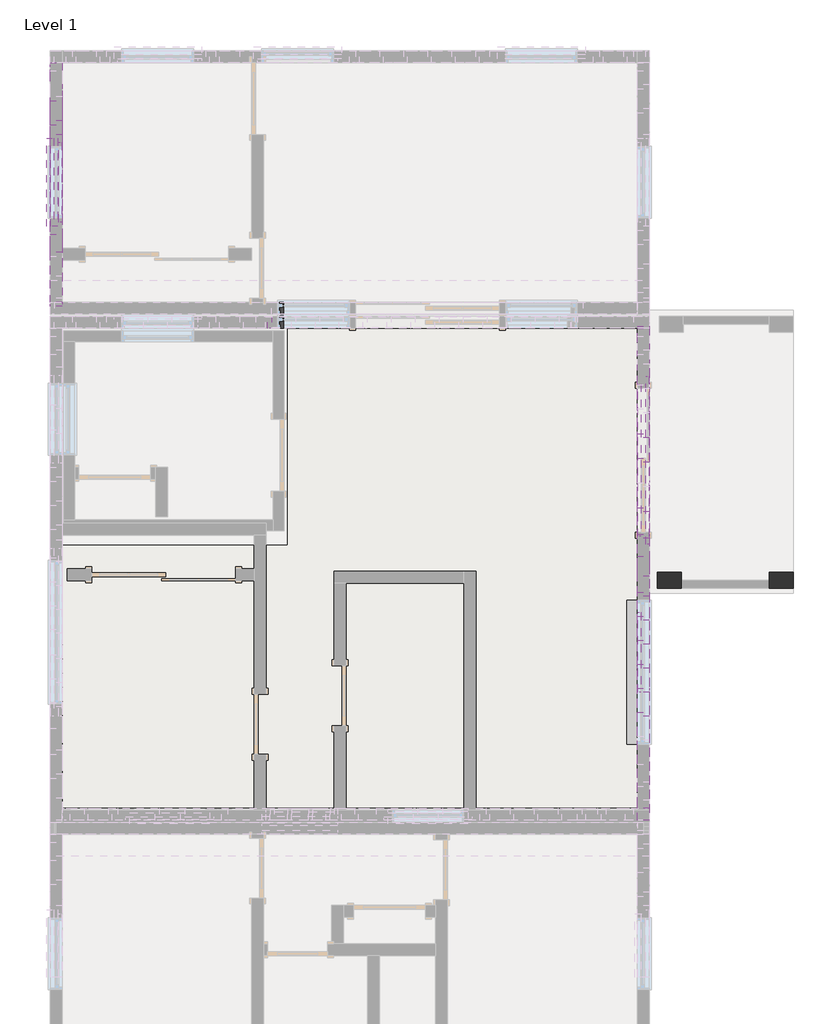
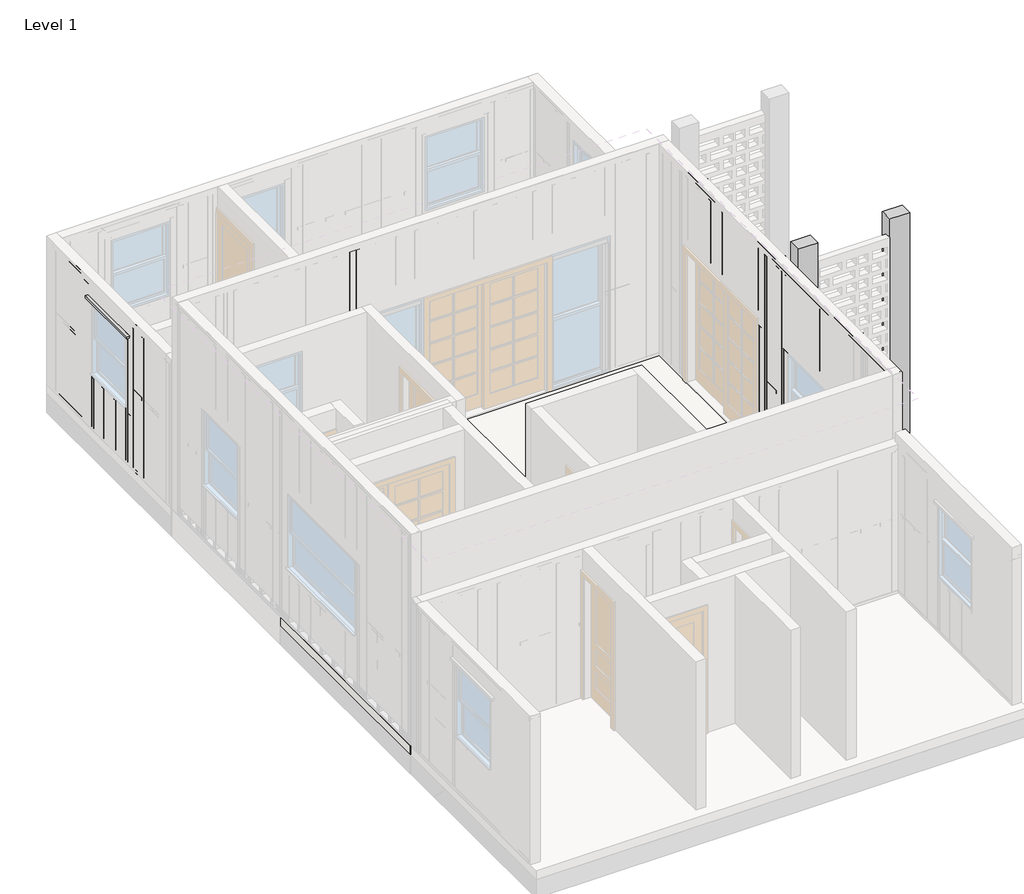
# One storey, part 9 of 12: 95 beams, 2 columns, 1 slab.
"""IFC4 building model written with IfcOpenShell, lengths in millimetres."""

from ifc_helpers import new_model, si_unit, frame, origin, origin_with_axes, place, context, project, spatial, polyline, outline, extrude, faceted_brep, transform, mapped, element, save
from components import dimension_lumber_2x6_02983d30, beam_fa8ff98f, beam_bfada912, beam_f2c8ab0e, beam_8b53db74, beam_bef4b980, beam_f887e3a5, beam_94f9b516, beam_558964e0, beam_303ef41e, beam_4715e774, beam_b7962ac8, beam_15472744, beam_b2f74068, beam_e05c4371, beam_19b97b81, beam_095611d5, beam_9beb57b8, beam_0a15c773, beam_52755977, beam_0c8f00b2, beam_836dcb35, beam_0ed2558e, beam_af26c5b7, beam_1f5e18a4, beam_b6a04b3d, beam_b4771957, beam_b94c8671, beam_764520b5, beam_3c0861fc, beam_066f0da2, beam_9d6aa0d6, beam_871d04bb, beam_51b55d0f, beam_34389604, beam_50f049cc, beam_a83041ab, beam_6518eab1, beam_1fd180ee, beam_5827d081

model = new_model("IFC4")

# Units and contexts
model_context = context("Model", 3, world=origin())
ifc_project = project(units=[si_unit("LENGTHUNIT", "METRE", prefix="MILLI")], contexts=[model_context])

# Site, building, storey
site = spatial("IfcSite", under=ifc_project)
building = spatial("IfcBuilding", under=site)
storey = spatial("IfcBuildingStorey", under=building, Name="Level 1", Elevation=0.0)

# Beams
placement = place(None, origin())
dimension_lumber_2x6_shape = dimension_lumber_2x6_02983d30(model_context)
element("IfcBeam", 1, ObjectType="Dimension Lumber : 2x6", at=placement, inside=storey, context=model_context, shape_type="MappedRepresentation", body=[
    mapped(dimension_lumber_2x6_shape, transform((-4117.1970766, -23281.1583219, 889.0), x_axis=(0.0, -1.0000000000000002, 0.0), y_axis=(0.0, 0.0, -1.0000000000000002), z_axis=(1.0000000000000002, 0.0, 0.0))),
])
element("IfcBeam", 2, ObjectType="Dimension Lumber : 2x6", at=placement, inside=storey, context=model_context, shape_type="MappedRepresentation", body=[
    mapped(dimension_lumber_2x6_shape, transform((-4117.1970766, -23281.1583219, 838.2), x_axis=(0.0, -1.0000000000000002, 0.0), y_axis=(0.0, 0.0, -1.0000000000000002), z_axis=(1.0000000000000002, 0.0, 0.0))),
])
element("IfcBeam", 3, ObjectType="Rectangular(Timber)-Beam : Timber_0' - 1 31/32\" x0' - 5 29/32\" _ContentGenerator", at=placement, inside=storey, context=model_context, shape_type="SweptSolid", body=[
    extrude(outline(polyline([(-3909.6790766, -21503.1863369), (-3909.6790766, -21553.9863369), (-4062.0790766, -21553.9863369), (-4062.0790766, -21503.1863369), (-3909.6790766, -21503.1863369)])), origin_with_axes(), (0.0, 0.0, 1.0), 2127.25),
])
element("IfcBeam", 4, ObjectType="Rectangular(Timber)-Beam : Timber_0' - 1 31/32\" x0' - 5 29/32\" _ContentGenerator", at=placement, inside=storey, context=model_context, shape_type="SweptSolid", body=[
    extrude(outline(polyline([(-15534.2431336, 2387.6), (-15585.0431336, 2336.8), (-18582.1763369, 2336.8), (-18632.9763369, 2387.6), (-15534.2431336, 2387.6)])), frame((-11529.6790766, 0.0, 0.0), z_axis=(1.0, 0.0, 0.0), x_axis=(0.0, 1.0, 0.0)), (0.0, 0.0, 1.0), 152.4),
])
element("IfcBeam", 5, ObjectType="Rectangular(Timber)-Beam : Timber_0' - 1 31/32\" x0' - 5 29/32\" _ContentGenerator", at=placement, inside=storey, context=model_context, shape_type="SweptSolid", body=[
    extrude(outline(polyline([(-11377.2790766, -17617.0431336), (-11377.2790766, -17667.8431336), (-11529.6790766, -17667.8431336), (-11529.6790766, -17617.0431336), (-11377.2790766, -17617.0431336)])), frame((0.0, 0.0, 50.8), z_axis=(0.0, 0.0, 1.0), x_axis=(1.0, 0.0, 0.0)), (0.0, 0.0, 1.0), 2286.0),
])
element("IfcBeam", 6, ObjectType="Rectangular(Timber)-Beam : Timber_0' - 1 31/32\" x0' - 5 29/32\" _ContentGenerator", at=placement, inside=storey, context=model_context, shape_type="SweptSolid", body=[
    extrude(outline(polyline([(-11377.2790766, -16448.6331336), (-11377.2790766, -16499.4331336), (-11529.6790766, -16499.4331336), (-11529.6790766, -16448.6331336), (-11377.2790766, -16448.6331336)])), frame((0.0, 0.0, 50.8), z_axis=(0.0, 0.0, 1.0), x_axis=(1.0, 0.0, 0.0)), (0.0, 0.0, 1.0), 2286.0),
])
element("IfcBeam", 7, ObjectType="Rectangular(Timber)-Beam : Timber_0' - 1 31/32\" x0' - 5 29/32\" _ContentGenerator", at=placement, inside=storey, context=model_context, shape_type="SweptSolid", body=[
    extrude(outline(polyline([(-4062.0790766, -21553.9863369), (-3909.6790766, -21553.9863369), (-3909.6790766, -24957.5813369), (-4062.0790766, -24957.5813369), (-4062.0790766, -21553.9863369)])), origin_with_axes(), (0.0, 0.0, 1.0), 50.8),
])
element("IfcBeam", 8, ObjectType="Rectangular(Timber)-Beam : Timber_0' - 1 31/32\" x0' - 5 29/32\" _ContentGenerator", at=placement, inside=storey, context=model_context, shape_type="SweptSolid", body=[
    extrude(outline(polyline([(-11377.2790766, -18582.1763369), (-11529.6790766, -18582.1763369), (-11529.6790766, -15585.0431336), (-11377.2790766, -15585.0431336), (-11377.2790766, -18582.1763369)])), origin_with_axes(), (0.0, 0.0, 1.0), 50.8),
])
element("IfcBeam", 9, ObjectType="Rectangular(Timber)-Beam : Timber_0' - 1 31/32\" x0' - 5 29/32\" _ContentGenerator", at=placement, inside=storey, context=model_context, shape_type="SweptSolid", body=[
    extrude(outline(polyline([(-25008.3813369, 3429.0), (-18886.9863369, 3429.0), (-18886.9863369, 3378.2), (-24957.5813369, 3378.2), (-25008.3813369, 3429.0)])), frame((-4062.0790766, 0.0, 0.0), z_axis=(1.0, 0.0, 0.0), x_axis=(0.0, 1.0, 0.0)), (0.0, 0.0, 1.0), 152.4),
])
element("IfcBeam", 10, ObjectType="Rectangular(Timber)-Beam : Timber_0' - 1 31/32\" x0' - 5 29/32\" _ContentGenerator", at=placement, inside=storey, context=model_context, shape_type="SweptSolid", body=[
    extrude(outline(polyline([(-11377.2790766, -16397.7931336), (-11377.2790766, -16448.5931336), (-11529.6790766, -16448.5931336), (-11529.6790766, -16397.7931336), (-11377.2790766, -16397.7931336)])), frame((0.0, 0.0, 50.8), z_axis=(0.0, 0.0, 1.0), x_axis=(1.0, 0.0, 0.0)), (0.0, 0.0, 1.0), 2286.0),
])
element("IfcBeam", 11, ObjectType="Rectangular(Timber)-Beam : Timber_0' - 1 31/32\" x0' - 5 29/32\" _ContentGenerator", at=placement, inside=storey, context=model_context, shape_type="SweptSolid", body=[
    extrude(outline(polyline([(-11377.2790766, -17667.8431336), (-11377.2790766, -17718.6431336), (-11529.6790766, -17718.6431336), (-11529.6790766, -17667.8431336), (-11377.2790766, -17667.8431336)])), frame((0.0, 0.0, 50.8), z_axis=(0.0, 0.0, 1.0), x_axis=(1.0, 0.0, 0.0)), (0.0, 0.0, 1.0), 2286.0),
])
beam_shape = beam_fa8ff98f(model_context)
element("IfcBeam", 12, ObjectType="Rectangular(Timber)-Beam : Timber_0' - 1 31/32\" x0' - 5 29/32\" _ContentGenerator", at=placement, inside=storey, context=model_context, shape_type="MappedRepresentation", body=[
    mapped(beam_shape, transform((-8736.5257433, -18836.1763369, 2985.8284875), x_axis=(0.0, 0.0, 1.0), y_axis=(1.0, 0.0, 0.0), z_axis=(0.0, 1.0, 0.0))),
])
beam_2_shape = beam_bfada912(model_context)
element("IfcBeam", 13, ObjectType="Rectangular(Timber)-Beam : Timber_0' - 1 31/32\" x0' - 5 29/32\" _ContentGenerator", at=placement, inside=storey, context=model_context, shape_type="MappedRepresentation", body=[
    mapped(beam_2_shape, transform((-8637.5936983, -18836.1763369, 1092.2), x_axis=(0.0, 0.0, 1.0), y_axis=(1.0, 0.0, 0.0), z_axis=(0.0, 1.0, 0.0))),
])
beam_3_shape = beam_f2c8ab0e(model_context)
element("IfcBeam", 14, ObjectType="Rectangular(Timber)-Beam : Timber_0' - 1 31/32\" x0' - 5 29/32\" _ContentGenerator", at=placement, inside=storey, context=model_context, shape_type="MappedRepresentation", body=[
    mapped(beam_3_shape, transform((-8586.7836983, -18658.4431336, 1089.025), x_axis=(0.0, 0.0, 1.0), y_axis=(-1.0, 0.0, 0.0), z_axis=(0.0, -1.0, 0.0))),
])
beam_4_shape = beam_8b53db74(model_context)
element("IfcBeam", 15, ObjectType="Rectangular(Timber)-Beam : Timber_0' - 1 31/32\" x0' - 5 29/32\" _ContentGenerator", at=placement, inside=storey, context=model_context, shape_type="MappedRepresentation", body=[
    mapped(beam_4_shape, transform((-3985.8790766, -21934.9813369, 1314.45), x_axis=(0.0, -1.0000000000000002, 0.0), y_axis=(0.0, 0.0, -1.0000000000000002), z_axis=(1.0000000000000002, 0.0, 0.0))),
])
beam_5_shape = beam_bef4b980(model_context)
element("IfcBeam", 16, ObjectType="Rectangular(Timber)-Beam : Timber_0' - 1 31/32\" x0' - 5 29/32\" _ContentGenerator", at=placement, inside=storey, context=model_context, shape_type="MappedRepresentation", body=[
    mapped(beam_5_shape, transform((-11453.4790766, -16385.1381336, 1314.45), x_axis=(0.0, 1.0000000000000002, 0.0), y_axis=(0.0, 0.0, -1.0000000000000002), z_axis=(-1.0000000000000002, 0.0, 0.0))),
])
beam_6_shape = beam_f887e3a5(model_context)
element("IfcBeam", 17, ObjectType="Rectangular(Timber)-Beam : Timber_0' - 1 31/32\" x0' - 5 29/32\" _ContentGenerator", at=placement, inside=storey, context=model_context, shape_type="MappedRepresentation", body=[
    mapped(beam_6_shape, transform((-11453.4790766, -17845.6431336, 1314.45), x_axis=(0.0, 1.0000000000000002, 0.0), y_axis=(0.0, 0.0, -1.0000000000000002), z_axis=(-1.0000000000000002, 0.0, 0.0))),
])
beam_7_shape = beam_94f9b516(model_context)
element("IfcBeam", 18, ObjectType="Rectangular(Timber)-Beam : Timber_0' - 1 31/32\" x0' - 5 29/32\" _ContentGenerator", at=placement, inside=storey, context=model_context, shape_type="MappedRepresentation", body=[
    mapped(beam_7_shape, transform((-3982.8612094, -22595.4087486, 431.8), x_axis=(0.0, 0.0, 1.0), y_axis=(0.0, -1.0, 0.0), z_axis=(1.0, 0.0, 0.0))),
])
element("IfcBeam", 19, ObjectType="Rectangular(Timber)-Beam : Timber_0' - 1 31/32\" x0' - 5 29/32\" _ContentGenerator", at=placement, inside=storey, context=model_context, shape_type="MappedRepresentation", body=[
    mapped(beam_7_shape, transform((-3982.8612094, -22900.2087486, 431.8), x_axis=(0.0, 0.0, 1.0), y_axis=(0.0, -1.0, 0.0), z_axis=(1.0, 0.0, 0.0))),
])
element("IfcBeam", 20, ObjectType="Rectangular(Timber)-Beam : Timber_0' - 1 31/32\" x0' - 5 29/32\" _ContentGenerator", at=placement, inside=storey, context=model_context, shape_type="MappedRepresentation", body=[
    mapped(beam_7_shape, transform((-3982.8612094, -23205.0087486, 431.8), x_axis=(0.0, 0.0, 1.0), y_axis=(0.0, -1.0, 0.0), z_axis=(1.0, 0.0, 0.0))),
])
element("IfcBeam", 21, ObjectType="Rectangular(Timber)-Beam : Timber_0' - 1 31/32\" x0' - 5 29/32\" _ContentGenerator", at=placement, inside=storey, context=model_context, shape_type="MappedRepresentation", body=[
    mapped(beam_7_shape, transform((-3982.8612094, -23509.8087486, 431.8), x_axis=(0.0, 0.0, 1.0), y_axis=(0.0, -1.0, 0.0), z_axis=(1.0, 0.0, 0.0))),
])
element("IfcBeam", 22, ObjectType="Rectangular(Timber)-Beam : Timber_0' - 1 31/32\" x0' - 5 29/32\" _ContentGenerator", at=placement, inside=storey, context=model_context, shape_type="MappedRepresentation", body=[
    mapped(beam_7_shape, transform((-3982.8612094, -23814.6087486, 431.8), x_axis=(0.0, 0.0, 1.0), y_axis=(0.0, -1.0, 0.0), z_axis=(1.0, 0.0, 0.0))),
])
beam_8_shape = beam_558964e0(model_context)
element("IfcBeam", 23, ObjectType="Rectangular(Timber)-Beam : Timber_0' - 1 31/32\" x0' - 5 29/32\" _ContentGenerator", at=placement, inside=storey, context=model_context, shape_type="MappedRepresentation", body=[
    mapped(beam_8_shape, transform((-11453.4790766, -17972.6431336, 1193.8), x_axis=(0.0, 0.0, 1.0), y_axis=(0.0, -1.0, 0.0), z_axis=(1.0, 0.0, 0.0))),
])
element("IfcBeam", 24, ObjectType="Rectangular(Timber)-Beam : Timber_0' - 1 31/32\" x0' - 5 29/32\" _ContentGenerator", at=placement, inside=storey, context=model_context, shape_type="MappedRepresentation", body=[
    mapped(beam_8_shape, transform((-11453.4790766, -16296.2431336, 1193.8), x_axis=(0.0, 0.0, 1.0), y_axis=(0.0, -1.0, 0.0), z_axis=(1.0, 0.0, 0.0))),
])
element("IfcBeam", 25, ObjectType="Rectangular(Timber)-Beam : Timber_0' - 1 31/32\" x0' - 5 29/32\" _ContentGenerator", at=placement, inside=storey, context=model_context, shape_type="MappedRepresentation", body=[
    mapped(beam_8_shape, transform((-8789.9836983, -18658.4431336, 1193.8), x_axis=(0.0, 0.0, 1.0), y_axis=(-1.0, 0.0, 0.0), z_axis=(0.0, -1.0, 0.0))),
])
element("IfcBeam", 26, ObjectType="Rectangular(Timber)-Beam : Timber_0' - 1 31/32\" x0' - 5 29/32\" _ContentGenerator", at=placement, inside=storey, context=model_context, shape_type="MappedRepresentation", body=[
    mapped(beam_8_shape, transform((-8840.7836983, -18658.4431336, 1193.8), x_axis=(0.0, 0.0, 1.0), y_axis=(-1.0, 0.0, 0.0), z_axis=(0.0, -1.0, 0.0))),
])
element("IfcBeam", 27, ObjectType="Rectangular(Timber)-Beam : Timber_0' - 1 31/32\" x0' - 5 29/32\" _ContentGenerator", at=placement, inside=storey, context=model_context, shape_type="MappedRepresentation", body=[
    mapped(beam_8_shape, transform((-8739.1836983, -18658.4431336, 1193.8), x_axis=(0.0, 0.0, 1.0), y_axis=(-1.0, 0.0, 0.0), z_axis=(0.0, -1.0, 0.0))),
])
beam_9_shape = beam_303ef41e(model_context)
element("IfcBeam", 28, ObjectType="Rectangular(Timber)-Beam : Timber_0' - 1 31/32\" x0' - 5 29/32\" _ContentGenerator", at=placement, inside=storey, context=model_context, shape_type="MappedRepresentation", body=[
    mapped(beam_9_shape, transform((-11453.4790766, -17058.2431336, 2413.0), x_axis=(0.0, 1.0000000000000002, 0.0), y_axis=(0.0, 0.0, -1.0000000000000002), z_axis=(-1.0000000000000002, 0.0, 0.0))),
])
beam_10_shape = beam_4715e774(model_context)
element("IfcBeam", 29, ObjectType="Rectangular(Timber)-Beam : Timber_0' - 1 31/32\" x0' - 5 29/32\" _ContentGenerator", at=placement, inside=storey, context=model_context, shape_type="MappedRepresentation", body=[
    mapped(beam_10_shape, transform((-8688.3936983, -18836.1763369, 1092.2), x_axis=(0.0, 0.0, 1.0), y_axis=(1.0, 0.0, 0.0), z_axis=(0.0, 1.0, 0.0))),
])
element("IfcBeam", 30, ObjectType="Rectangular(Timber)-Beam : Timber_0' - 1 31/32\" x0' - 5 29/32\" _ContentGenerator", at=placement, inside=storey, context=model_context, shape_type="MappedRepresentation", body=[
    mapped(beam_10_shape, transform((-8586.7936983, -18836.1763369, 1092.2), x_axis=(0.0, 0.0, 1.0), y_axis=(1.0, 0.0, 0.0), z_axis=(0.0, 1.0, 0.0))),
])
beam_11_shape = beam_b7962ac8(model_context)
element("IfcBeam", 31, ObjectType="Rectangular(Timber)-Beam : Timber_0' - 1 31/32\" x0' - 5 29/32\" _ContentGenerator", at=placement, inside=storey, context=model_context, shape_type="MappedRepresentation", body=[
    mapped(beam_11_shape, transform((-11453.4790766, -17490.0331336, 457.2), x_axis=(0.0, 0.0, 1.0), y_axis=(0.0, -1.0, 0.0), z_axis=(1.0, 0.0, 0.0))),
])
element("IfcBeam", 32, ObjectType="Rectangular(Timber)-Beam : Timber_0' - 1 31/32\" x0' - 5 29/32\" _ContentGenerator", at=placement, inside=storey, context=model_context, shape_type="MappedRepresentation", body=[
    mapped(beam_11_shape, transform((-11453.4790766, -16626.4331336, 457.2), x_axis=(0.0, 0.0, 1.0), y_axis=(0.0, -1.0, 0.0), z_axis=(1.0, 0.0, 0.0))),
])
element("IfcBeam", 33, ObjectType="Rectangular(Timber)-Beam : Timber_0' - 1 31/32\" x0' - 5 29/32\" _ContentGenerator", at=placement, inside=storey, context=model_context, shape_type="MappedRepresentation", body=[
    mapped(beam_11_shape, transform((-11453.4790766, -17219.1098003, 457.2), x_axis=(0.0, 0.0, 1.0), y_axis=(0.0, -1.0, 0.0), z_axis=(1.0, 0.0, 0.0))),
])
element("IfcBeam", 34, ObjectType="Rectangular(Timber)-Beam : Timber_0' - 1 31/32\" x0' - 5 29/32\" _ContentGenerator", at=placement, inside=storey, context=model_context, shape_type="MappedRepresentation", body=[
    mapped(beam_11_shape, transform((-11453.4790766, -16897.376467, 457.2), x_axis=(0.0, 0.0, 1.0), y_axis=(0.0, -1.0, 0.0), z_axis=(1.0, 0.0, 0.0))),
])
beam_12_shape = beam_15472744(model_context)
element("IfcBeam", 35, ObjectType="Rectangular(Timber)-Beam : Timber_0' - 1 31/32\" x0' - 5 29/32\" _ContentGenerator", at=placement, inside=storey, context=model_context, shape_type="MappedRepresentation", body=[
    mapped(beam_12_shape, transform((-3985.8790766, -21782.5863369, 1715.8284875), x_axis=(0.0, 0.0, 1.0), y_axis=(0.0, -1.0, 0.0), z_axis=(1.0, 0.0, 0.0))),
])
element("IfcBeam", 36, ObjectType="Rectangular(Timber)-Beam : Timber_0' - 1 31/32\" x0' - 5 29/32\" _ContentGenerator", at=placement, inside=storey, context=model_context, shape_type="MappedRepresentation", body=[
    mapped(beam_12_shape, transform((-3985.8790766, -22087.3763369, 1715.8284875), x_axis=(0.0, 0.0, 1.0), y_axis=(0.0, -1.0, 0.0), z_axis=(1.0, 0.0, 0.0))),
])
element("IfcBeam", 37, ObjectType="Rectangular(Timber)-Beam : Timber_0' - 1 31/32\" x0' - 5 29/32\" _ContentGenerator", at=placement, inside=storey, context=model_context, shape_type="MappedRepresentation", body=[
    mapped(beam_12_shape, transform((-3985.9680886, -22189.0087486, 1715.8378845), x_axis=(0.0, 0.0, 1.0), y_axis=(0.0, -1.0, 0.0), z_axis=(1.0, 0.0, 0.0))),
])
element("IfcBeam", 38, ObjectType="Rectangular(Timber)-Beam : Timber_0' - 1 31/32\" x0' - 5 29/32\" _ContentGenerator", at=placement, inside=storey, context=model_context, shape_type="MappedRepresentation", body=[
    mapped(beam_12_shape, transform((-3985.9680886, -22138.2087486, 1715.8378845), x_axis=(0.0, 0.0, 1.0), y_axis=(0.0, -1.0, 0.0), z_axis=(1.0, 0.0, 0.0))),
])
element("IfcBeam", 39, ObjectType="Rectangular(Timber)-Beam : Timber_0' - 1 31/32\" x0' - 5 29/32\" _ContentGenerator", at=placement, inside=storey, context=model_context, shape_type="MappedRepresentation", body=[
    mapped(beam_12_shape, transform((-8789.9936983, -18836.1763369, 1715.8284875), x_axis=(0.0, 0.0, 1.0), y_axis=(1.0, 0.0, 0.0), z_axis=(0.0, 1.0, 0.0))),
])
element("IfcBeam", 40, ObjectType="Rectangular(Timber)-Beam : Timber_0' - 1 31/32\" x0' - 5 29/32\" _ContentGenerator", at=placement, inside=storey, context=model_context, shape_type="MappedRepresentation", body=[
    mapped(beam_12_shape, transform((-8840.7936983, -18836.1763369, 1715.8284875), x_axis=(0.0, 0.0, 1.0), y_axis=(1.0, 0.0, 0.0), z_axis=(0.0, 1.0, 0.0))),
])
element("IfcBeam", 41, ObjectType="Rectangular(Timber)-Beam : Timber_0' - 1 31/32\" x0' - 5 29/32\" _ContentGenerator", at=placement, inside=storey, context=model_context, shape_type="MappedRepresentation", body=[
    mapped(beam_12_shape, transform((-8739.1936983, -18836.1763369, 1715.8284875), x_axis=(0.0, 0.0, 1.0), y_axis=(1.0, 0.0, 0.0), z_axis=(0.0, 1.0, 0.0))),
])
beam_13_shape = beam_b2f74068(model_context)
element("IfcBeam", 42, ObjectType="Rectangular(Timber)-Beam : Timber_0' - 1 31/32\" x0' - 5 29/32\" _ContentGenerator", at=placement, inside=storey, context=model_context, shape_type="MappedRepresentation", body=[
    mapped(beam_13_shape, transform((-3985.8790766, -21680.9863369, 1714.5), x_axis=(0.0, 0.0, 1.0), y_axis=(0.0, -1.0, 0.0), z_axis=(1.0, 0.0, 0.0))),
])
element("IfcBeam", 43, ObjectType="Rectangular(Timber)-Beam : Timber_0' - 1 31/32\" x0' - 5 29/32\" _ContentGenerator", at=placement, inside=storey, context=model_context, shape_type="MappedRepresentation", body=[
    mapped(beam_13_shape, transform((-3985.8790766, -21731.7863369, 1714.5), x_axis=(0.0, 0.0, 1.0), y_axis=(0.0, -1.0, 0.0), z_axis=(1.0, 0.0, 0.0))),
])
beam_14_shape = beam_e05c4371(model_context)
element("IfcBeam", 44, ObjectType="Rectangular(Timber)-Beam : Timber_0' - 1 31/32\" x0' - 5 29/32\" _ContentGenerator", at=placement, inside=storey, context=model_context, shape_type="MappedRepresentation", body=[
    mapped(beam_14_shape, transform((-11453.4790766, -17058.2331336, 889.0), x_axis=(0.0, 1.0000000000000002, 0.0), y_axis=(0.0, 0.0, -1.0000000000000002), z_axis=(-1.0000000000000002, 0.0, 0.0))),
])
beam_15_shape = beam_19b97b81(model_context)
element("IfcBeam", 45, ObjectType="Rectangular(Timber)-Beam : Timber_0' - 1 31/32\" x0' - 5 29/32\" _ContentGenerator", at=placement, inside=storey, context=model_context, shape_type="MappedRepresentation", body=[
    mapped(beam_15_shape, transform((-11453.4790766, -16143.8431336, 1314.45), x_axis=(0.0, 1.0000000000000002, 0.0), y_axis=(0.0, 0.0, -1.0000000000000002), z_axis=(-1.0000000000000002, 0.0, 0.0))),
])
beam_16_shape = beam_095611d5(model_context)
element("IfcBeam", 46, ObjectType="Rectangular(Timber)-Beam : Timber_0' - 1 31/32\" x0' - 5 29/32\" _ContentGenerator", at=placement, inside=storey, context=model_context, shape_type="MappedRepresentation", body=[
    mapped(beam_16_shape, transform((-3985.8790766, -22036.5763369, 3454.4), x_axis=(0.0, -1.0000000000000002, 0.0), y_axis=(0.0, 0.0, 1.0000000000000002), z_axis=(-1.0000000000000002, 0.0, 0.0))),
])
beam_17_shape = beam_9beb57b8(model_context)
element("IfcBeam", 47, ObjectType="Rectangular(Timber)-Beam : Timber_0' - 1 31/32\" x0' - 5 29/32\" _ContentGenerator", at=placement, inside=storey, context=model_context, shape_type="MappedRepresentation", body=[
    mapped(beam_17_shape, transform((-11453.4790766, -17540.8331336, 1101.725), x_axis=(0.0, 0.0, 1.0), y_axis=(0.0, -1.0, 0.0), z_axis=(1.0, 0.0, 0.0))),
])
element("IfcBeam", 48, ObjectType="Rectangular(Timber)-Beam : Timber_0' - 1 31/32\" x0' - 5 29/32\" _ContentGenerator", at=placement, inside=storey, context=model_context, shape_type="MappedRepresentation", body=[
    mapped(beam_17_shape, transform((-11453.4790766, -16575.6331336, 1101.725), x_axis=(0.0, 0.0, 1.0), y_axis=(0.0, -1.0, 0.0), z_axis=(1.0, 0.0, 0.0))),
])
element("IfcBeam", 49, ObjectType="Rectangular(Timber)-Beam : Timber_0' - 1 31/32\" x0' - 5 29/32\" _ContentGenerator", at=placement, inside=storey, context=model_context, shape_type="MappedRepresentation", body=[
    mapped(beam_17_shape, transform((-11453.4790766, -16524.8331336, 1101.725), x_axis=(0.0, 0.0, 1.0), y_axis=(0.0, -1.0, 0.0), z_axis=(1.0, 0.0, 0.0))),
])
element("IfcBeam", 50, ObjectType="Rectangular(Timber)-Beam : Timber_0' - 1 31/32\" x0' - 5 29/32\" _ContentGenerator", at=placement, inside=storey, context=model_context, shape_type="MappedRepresentation", body=[
    mapped(beam_17_shape, transform((-11453.4790766, -17591.6531336, 1101.725), x_axis=(0.0, 0.0, 1.0), y_axis=(0.0, -1.0, 0.0), z_axis=(1.0, 0.0, 0.0))),
])
element("IfcBeam", 51, ObjectType="Rectangular(Timber)-Beam : Timber_0' - 1 31/32\" x0' - 5 29/32\" _ContentGenerator", at=placement, inside=storey, context=model_context, shape_type="MappedRepresentation", body=[
    mapped(beam_17_shape, transform((-8637.5836983, -18658.4431336, 1101.725), x_axis=(0.0, 0.0, 1.0), y_axis=(-1.0, 0.0, 0.0), z_axis=(0.0, -1.0, 0.0))),
])
element("IfcBeam", 52, ObjectType="Rectangular(Timber)-Beam : Timber_0' - 1 31/32\" x0' - 5 29/32\" _ContentGenerator", at=placement, inside=storey, context=model_context, shape_type="MappedRepresentation", body=[
    mapped(beam_17_shape, transform((-8688.3836983, -18658.4431336, 1101.725), x_axis=(0.0, 0.0, 1.0), y_axis=(-1.0, 0.0, 0.0), z_axis=(0.0, -1.0, 0.0))),
])
beam_18_shape = beam_0a15c773(model_context)
element("IfcBeam", 53, ObjectType="Rectangular(Timber)-Beam : Timber_0' - 1 31/32\" x0' - 5 29/32\" _ContentGenerator", at=placement, inside=storey, context=model_context, shape_type="MappedRepresentation", body=[
    mapped(beam_18_shape, transform((-3985.9680886, -22392.2087486, 460.384397), x_axis=(0.0, 0.0, 1.0), y_axis=(0.0, -1.0, 0.0), z_axis=(1.0, 0.0, 0.0))),
])
beam_19_shape = beam_52755977(model_context)
element("IfcBeam", 54, ObjectType="Rectangular(Timber)-Beam : Timber_0' - 1 31/32\" x0' - 5 29/32\" _ContentGenerator", at=placement, inside=storey, context=model_context, shape_type="MappedRepresentation", body=[
    mapped(beam_19_shape, transform((-3985.8790766, -20275.5096702, 2871.5284875), x_axis=(0.0, 0.0, 1.0), y_axis=(0.0, -1.0, 0.0), z_axis=(1.0, 0.0, 0.0))),
])
element("IfcBeam", 55, ObjectType="Rectangular(Timber)-Beam : Timber_0' - 1 31/32\" x0' - 5 29/32\" _ContentGenerator", at=placement, inside=storey, context=model_context, shape_type="MappedRepresentation", body=[
    mapped(beam_19_shape, transform((-3985.8790766, -20588.7763369, 2871.5284875), x_axis=(0.0, 0.0, 1.0), y_axis=(0.0, -1.0, 0.0), z_axis=(1.0, 0.0, 0.0))),
])
element("IfcBeam", 56, ObjectType="Rectangular(Timber)-Beam : Timber_0' - 1 31/32\" x0' - 5 29/32\" _ContentGenerator", at=placement, inside=storey, context=model_context, shape_type="MappedRepresentation", body=[
    mapped(beam_19_shape, transform((-3985.8790766, -21215.3096702, 2871.5284875), x_axis=(0.0, 0.0, 1.0), y_axis=(0.0, -1.0, 0.0), z_axis=(1.0, 0.0, 0.0))),
])
element("IfcBeam", 57, ObjectType="Rectangular(Timber)-Beam : Timber_0' - 1 31/32\" x0' - 5 29/32\" _ContentGenerator", at=placement, inside=storey, context=model_context, shape_type="MappedRepresentation", body=[
    mapped(beam_19_shape, transform((-3985.8790766, -21553.9763369, 2871.5284875), x_axis=(0.0, 0.0, 1.0), y_axis=(0.0, -1.0, 0.0), z_axis=(1.0, 0.0, 0.0))),
])
beam_20_shape = beam_0c8f00b2(model_context)
element("IfcBeam", 58, ObjectType="Rectangular(Timber)-Beam : Timber_0' - 1 31/32\" x0' - 5 29/32\" _ContentGenerator", at=placement, inside=storey, context=model_context, shape_type="MappedRepresentation", body=[
    mapped(beam_20_shape, transform((-3982.8612094, -22595.4087486, 2874.708186), x_axis=(0.0, 0.0, 1.0), y_axis=(0.0, -1.0, 0.0), z_axis=(1.0, 0.0, 0.0))),
])
element("IfcBeam", 59, ObjectType="Rectangular(Timber)-Beam : Timber_0' - 1 31/32\" x0' - 5 29/32\" _ContentGenerator", at=placement, inside=storey, context=model_context, shape_type="MappedRepresentation", body=[
    mapped(beam_20_shape, transform((-3982.8612094, -22900.2087486, 2874.708186), x_axis=(0.0, 0.0, 1.0), y_axis=(0.0, -1.0, 0.0), z_axis=(1.0, 0.0, 0.0))),
])
element("IfcBeam", 60, ObjectType="Rectangular(Timber)-Beam : Timber_0' - 1 31/32\" x0' - 5 29/32\" _ContentGenerator", at=placement, inside=storey, context=model_context, shape_type="MappedRepresentation", body=[
    mapped(beam_20_shape, transform((-3982.8612094, -23205.0087486, 2874.708186), x_axis=(0.0, 0.0, 1.0), y_axis=(0.0, -1.0, 0.0), z_axis=(1.0, 0.0, 0.0))),
])
element("IfcBeam", 61, ObjectType="Rectangular(Timber)-Beam : Timber_0' - 1 31/32\" x0' - 5 29/32\" _ContentGenerator", at=placement, inside=storey, context=model_context, shape_type="MappedRepresentation", body=[
    mapped(beam_20_shape, transform((-3982.8612094, -23509.8087486, 2874.708186), x_axis=(0.0, 0.0, 1.0), y_axis=(0.0, -1.0, 0.0), z_axis=(1.0, 0.0, 0.0))),
])
element("IfcBeam", 62, ObjectType="Rectangular(Timber)-Beam : Timber_0' - 1 31/32\" x0' - 5 29/32\" _ContentGenerator", at=placement, inside=storey, context=model_context, shape_type="MappedRepresentation", body=[
    mapped(beam_20_shape, transform((-3982.8612094, -23814.6087486, 2874.708186), x_axis=(0.0, 0.0, 1.0), y_axis=(0.0, -1.0, 0.0), z_axis=(1.0, 0.0, 0.0))),
])
element("IfcBeam", 63, ObjectType="Rectangular(Timber)-Beam : Timber_0' - 1 31/32\" x0' - 5 29/32\" _ContentGenerator", at=placement, inside=storey, context=model_context, shape_type="MappedRepresentation", body=[
    mapped(beam_20_shape, transform((-3982.8612094, -22290.6087486, 2874.708186), x_axis=(0.0, 0.0, 1.0), y_axis=(0.0, -1.0, 0.0), z_axis=(1.0, 0.0, 0.0))),
])
beam_21_shape = beam_836dcb35(model_context)
element("IfcBeam", 64, ObjectType="Rectangular(Timber)-Beam : Timber_0' - 1 31/32\" x0' - 5 29/32\" _ContentGenerator", at=placement, inside=storey, context=model_context, shape_type="MappedRepresentation", body=[
    mapped(beam_21_shape, transform((-3985.9680886, -22341.4087486, 1095.3796985), x_axis=(0.0, 0.0, 1.0), y_axis=(0.0, -1.0, 0.0), z_axis=(1.0, 0.0, 0.0))),
])
element("IfcBeam", 65, ObjectType="Rectangular(Timber)-Beam : Timber_0' - 1 31/32\" x0' - 5 29/32\" _ContentGenerator", at=placement, inside=storey, context=model_context, shape_type="MappedRepresentation", body=[
    mapped(beam_21_shape, transform((-3985.9680886, -22290.6087486, 1095.3796985), x_axis=(0.0, 0.0, 1.0), y_axis=(0.0, -1.0, 0.0), z_axis=(1.0, 0.0, 0.0))),
])
element("IfcBeam", 66, ObjectType="Rectangular(Timber)-Beam : Timber_0' - 1 31/32\" x0' - 5 29/32\" _ContentGenerator", at=placement, inside=storey, context=model_context, shape_type="MappedRepresentation", body=[
    mapped(beam_21_shape, transform((-3985.9680886, -22239.8087486, 1095.3796985), x_axis=(0.0, 0.0, 1.0), y_axis=(0.0, -1.0, 0.0), z_axis=(1.0, 0.0, 0.0))),
])
beam_22_shape = beam_0ed2558e(model_context)
element("IfcBeam", 67, ObjectType="Rectangular(Timber)-Beam : Timber_0' - 1 31/32\" x0' - 5 29/32\" _ContentGenerator", at=placement, inside=storey, context=model_context, shape_type="MappedRepresentation", body=[
    mapped(beam_22_shape, transform((-3985.8790766, -21579.3863369, 1089.025), x_axis=(0.0, 0.0, 1.0), y_axis=(0.0, -1.0, 0.0), z_axis=(1.0, 0.0, 0.0))),
])
element("IfcBeam", 68, ObjectType="Rectangular(Timber)-Beam : Timber_0' - 1 31/32\" x0' - 5 29/32\" _ContentGenerator", at=placement, inside=storey, context=model_context, shape_type="MappedRepresentation", body=[
    mapped(beam_22_shape, transform((-3985.8790766, -21630.1863369, 1089.025), x_axis=(0.0, 0.0, 1.0), y_axis=(0.0, -1.0, 0.0), z_axis=(1.0, 0.0, 0.0))),
])
beam_23_shape = beam_af26c5b7(model_context)
element("IfcBeam", 69, ObjectType="WallPlates : 6\" x 2\"", at=placement, inside=storey, context=model_context, shape_type="MappedRepresentation", body=[
    mapped(beam_23_shape, transform((-11504.2790766, -17058.2381336, 2133.6), x_axis=(0.0, 1.0, 0.0), y_axis=(-1.0, 0.0, 0.0), z_axis=(0.0, 0.0, 1.0))),
])
beam_24_shape = beam_1f5e18a4(model_context)
element("IfcBeam", 70, ObjectType="WallPlates : 6\" x 3\"", at=placement, inside=storey, context=model_context, shape_type="MappedRepresentation", body=[
    mapped(beam_24_shape, transform((-3944.6040766, -22508.8833525, 742.95), x_axis=(0.0, -1.0000000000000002, 0.0), y_axis=(0.0, 0.0, -1.0000000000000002), z_axis=(1.0000000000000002, 0.0, 0.0))),
])
beam_25_shape = beam_b6a04b3d(model_context)
element("IfcBeam", 71, ObjectType="WallPlates : 6\" x 3\"", at=placement, inside=storey, context=model_context, shape_type="MappedRepresentation", body=[
    mapped(beam_25_shape, transform((-3944.6040766, -23966.9583219, 742.95), x_axis=(0.0, -1.0000000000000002, 0.0), y_axis=(0.0, 0.0, -1.0000000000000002), z_axis=(1.0000000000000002, 0.0, 0.0))),
])
beam_26_shape = beam_b4771957(model_context)
element("IfcBeam", 72, ObjectType="WallPlates : 6\" x 3\"", at=placement, inside=storey, context=model_context, shape_type="MappedRepresentation", body=[
    mapped(beam_26_shape, transform((-3944.6040766, -23651.8833525, 742.95), x_axis=(0.0, -1.0000000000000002, 0.0), y_axis=(0.0, 0.0, -1.0000000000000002), z_axis=(1.0000000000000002, 0.0, 0.0))),
])
beam_27_shape = beam_b94c8671(model_context)
element("IfcBeam", 73, ObjectType="WallPlates : 6\" x 3\"", at=placement, inside=storey, context=model_context, shape_type="MappedRepresentation", body=[
    mapped(beam_27_shape, transform((-11494.7540766, -17354.571467, 793.75), x_axis=(0.0, 1.0000000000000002, 0.0), y_axis=(0.0, 0.0, -1.0000000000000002), z_axis=(-1.0000000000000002, 0.0, 0.0))),
])
beam_28_shape = beam_764520b5(model_context)
element("IfcBeam", 74, ObjectType="WallPlates : 6\" x 3\"", at=placement, inside=storey, context=model_context, shape_type="MappedRepresentation", body=[
    mapped(beam_28_shape, transform((-11494.7540766, -17642.4381336, 787.4), x_axis=(0.0, 1.0000000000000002, 0.0), y_axis=(0.0, 0.0, -1.0000000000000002), z_axis=(-1.0000000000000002, 0.0, 0.0))),
])
beam_29_shape = beam_3c0861fc(model_context)
element("IfcBeam", 75, ObjectType="WallPlates : 6\" x 3\"", at=placement, inside=storey, context=model_context, shape_type="MappedRepresentation", body=[
    mapped(beam_29_shape, transform((-11494.7540766, -16787.3048003, 793.75), x_axis=(0.0, 1.0000000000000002, 0.0), y_axis=(0.0, 0.0, -1.0000000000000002), z_axis=(-1.0000000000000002, 0.0, 0.0))),
])
beam_30_shape = beam_066f0da2(model_context)
element("IfcBeam", 76, ObjectType="WallPlates : 6\" x 3\"", at=placement, inside=storey, context=model_context, shape_type="MappedRepresentation", body=[
    mapped(beam_30_shape, transform((-3944.6040766, -21972.2824072, 1219.2), x_axis=(0.0, -1.0000000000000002, 0.0), y_axis=(0.0, 0.0, -1.0000000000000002), z_axis=(1.0000000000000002, 0.0, 0.0))),
])
element("IfcBeam", 77, ObjectType="WallPlates : 6\" x 3\"", at=placement, inside=storey, context=model_context, shape_type="MappedRepresentation", body=[
    mapped(beam_30_shape, transform((-3944.6040766, -21972.2824072, 812.8), x_axis=(0.0, -1.0000000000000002, 0.0), y_axis=(0.0, 0.0, -1.0000000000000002), z_axis=(1.0000000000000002, 0.0, 0.0))),
])
beam_31_shape = beam_9d6aa0d6(model_context)
element("IfcBeam", 78, ObjectType="WallPlates : 6\" x 3\"", at=placement, inside=storey, context=model_context, shape_type="MappedRepresentation", body=[
    mapped(beam_31_shape, transform((-11494.7540766, -17845.6431336, 787.4), x_axis=(0.0, 1.0000000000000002, 0.0), y_axis=(0.0, 0.0, -1.0000000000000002), z_axis=(-1.0000000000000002, 0.0, 0.0))),
])
element("IfcBeam", 79, ObjectType="WallPlates : 6\" x 3\"", at=placement, inside=storey, context=model_context, shape_type="MappedRepresentation", body=[
    mapped(beam_31_shape, transform((-11494.7540766, -16169.2431336, 793.75), x_axis=(0.0, 1.0000000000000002, 0.0), y_axis=(0.0, 0.0, -1.0000000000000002), z_axis=(-1.0000000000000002, 0.0, 0.0))),
])
element("IfcBeam", 80, ObjectType="WallPlates : 6\" x 3\"", at=placement, inside=storey, context=model_context, shape_type="MappedRepresentation", body=[
    mapped(beam_31_shape, transform((-3944.6040766, -23362.1579564, 742.95), x_axis=(0.0, -1.0000000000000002, 0.0), y_axis=(0.0, 0.0, -1.0000000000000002), z_axis=(1.0000000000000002, 0.0, 0.0))),
])
element("IfcBeam", 81, ObjectType="WallPlates : 6\" x 3\"", at=placement, inside=storey, context=model_context, shape_type="MappedRepresentation", body=[
    mapped(beam_31_shape, transform((-3944.6040766, -23057.3579564, 742.95), x_axis=(0.0, -1.0000000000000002, 0.0), y_axis=(0.0, 0.0, -1.0000000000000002), z_axis=(1.0000000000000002, 0.0, 0.0))),
])
element("IfcBeam", 82, ObjectType="WallPlates : 6\" x 3\"", at=placement, inside=storey, context=model_context, shape_type="MappedRepresentation", body=[
    mapped(beam_31_shape, transform((-3944.6040766, -22752.5579564, 742.95), x_axis=(0.0, -1.0000000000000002, 0.0), y_axis=(0.0, 0.0, -1.0000000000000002), z_axis=(1.0000000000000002, 0.0, 0.0))),
])
beam_32_shape = beam_871d04bb(model_context)
element("IfcBeam", 83, ObjectType="WallPlates : 6\" x 3\"", at=placement, inside=storey, context=model_context, shape_type="MappedRepresentation", body=[
    mapped(beam_32_shape, transform((-11494.7540766, -17655.1381336, 1219.2), x_axis=(0.0, 1.0000000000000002, 0.0), y_axis=(0.0, 0.0, -1.0000000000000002), z_axis=(-1.0000000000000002, 0.0, 0.0))),
])
beam_33_shape = beam_51b55d0f(model_context)
element("IfcBeam", 84, ObjectType="WallPlates : 6\" x 3\"", at=placement, inside=storey, context=model_context, shape_type="MappedRepresentation", body=[
    mapped(beam_33_shape, transform((-11494.7540766, -16410.5381336, 1219.2), x_axis=(0.0, 1.0000000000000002, 0.0), y_axis=(0.0, 0.0, -1.0000000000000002), z_axis=(-1.0000000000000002, 0.0, 0.0))),
])
element("IfcBeam", 85, ObjectType="WallPlates : 6\" x 3\"", at=placement, inside=storey, context=model_context, shape_type="MappedRepresentation", body=[
    mapped(beam_33_shape, transform((-3944.6040766, -21693.6813369, 812.8), x_axis=(0.0, -1.0000000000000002, 0.0), y_axis=(0.0, 0.0, -1.0000000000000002), z_axis=(1.0000000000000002, 0.0, 0.0))),
])
element("IfcBeam", 86, ObjectType="WallPlates : 6\" x 3\"", at=placement, inside=storey, context=model_context, shape_type="MappedRepresentation", body=[
    mapped(beam_33_shape, transform((-11494.7540766, -16410.5381336, 793.75), x_axis=(0.0, 1.0000000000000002, 0.0), y_axis=(0.0, 0.0, -1.0000000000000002), z_axis=(-1.0000000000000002, 0.0, 0.0))),
])
element("IfcBeam", 87, ObjectType="WallPlates : 6\" x 3\"", at=placement, inside=storey, context=model_context, shape_type="MappedRepresentation", body=[
    mapped(beam_31_shape, transform((-11494.7540766, -16169.2431336, 1219.2), x_axis=(0.0, 1.0000000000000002, 0.0), y_axis=(0.0, 0.0, -1.0000000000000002), z_axis=(-1.0000000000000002, 0.0, 0.0))),
])
element("IfcBeam", 88, ObjectType="WallPlates : 6\" x 3\"", at=placement, inside=storey, context=model_context, shape_type="MappedRepresentation", body=[
    mapped(beam_33_shape, transform((-3944.6040766, -21693.6813369, 1219.2), x_axis=(0.0, -1.0000000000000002, 0.0), y_axis=(0.0, 0.0, -1.0000000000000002), z_axis=(1.0000000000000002, 0.0, 0.0))),
])
beam_34_shape = beam_34389604(model_context)
element("IfcBeam", 89, ObjectType="WallPlates : 6\" x 3\"", at=placement, inside=storey, context=model_context, shape_type="MappedRepresentation", body=[
    mapped(beam_34_shape, transform((-11494.7540766, -17858.3431336, 1219.2), x_axis=(0.0, 1.0000000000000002, 0.0), y_axis=(0.0, 0.0, -1.0000000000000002), z_axis=(-1.0000000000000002, 0.0, 0.0))),
])
beam_35_shape = beam_50f049cc(model_context)
element("IfcBeam", 90, ObjectType="WallPlates : 6\" x 3\"", at=placement, inside=storey, context=model_context, shape_type="MappedRepresentation", body=[
    mapped(beam_35_shape, transform((-11494.7540766, -17083.6431336, 793.75), x_axis=(0.0, 1.0000000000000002, 0.0), y_axis=(0.0, 0.0, -1.0000000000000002), z_axis=(-1.0000000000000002, 0.0, 0.0))),
])
beam_36_shape = beam_a83041ab(model_context)
element("IfcBeam", 91, ObjectType="WallPlates : 8\" x 2\"", at=placement, inside=storey, context=model_context, shape_type="MappedRepresentation", body=[
    mapped(beam_36_shape, transform((-3935.0790766, -20588.7863369, 2219.325), x_axis=(0.0, -1.0, 0.0), y_axis=(0.0, 0.0, -1.0), z_axis=(1.0, 0.0, 0.0))),
])
beam_37_shape = beam_6518eab1(model_context)
element("IfcBeam", 92, ObjectType="WallPlates : 8\" x 2\"", at=placement, inside=storey, context=model_context, shape_type="MappedRepresentation", body=[
    mapped(beam_37_shape, transform((-11504.2790766, -17058.2381336, 2244.725), x_axis=(0.0, 1.0, 0.0), y_axis=(0.0, 0.0, -1.0), z_axis=(-1.0, 0.0, 0.0))),
])
beam_38_shape = beam_1fd180ee(model_context)
element("IfcBeam", 93, ObjectType="WallPlates : 8\" x 2\"", at=placement, inside=storey, context=model_context, shape_type="MappedRepresentation", body=[
    mapped(beam_38_shape, transform((-4036.6790766, -23027.1763369, 2260.6), x_axis=(0.0, -1.0, 0.0), y_axis=(0.0, 0.0, -1.0), z_axis=(1.0, 0.0, 0.0))),
])
element("IfcBeam", 94, ObjectType="WallPlates : 8\" x 2\"", at=placement, inside=storey, context=model_context, shape_type="MappedRepresentation", body=[
    mapped(beam_38_shape, transform((-11402.6790766, -17058.2431336, 2244.725), x_axis=(0.0, 1.0, 0.0), y_axis=(0.0, 0.0, -1.0), z_axis=(-1.0, 0.0, 0.0))),
])
beam_39_shape = beam_5827d081(model_context)
element("IfcBeam", 95, ObjectType="WallPlates : 8\" x 2\"", at=placement, inside=storey, context=model_context, shape_type="MappedRepresentation", body=[
    mapped(beam_39_shape, transform((-4036.6790766, -20588.7763369, 2219.325), x_axis=(0.0, -1.0, 0.0), y_axis=(0.0, 0.0, -1.0), z_axis=(1.0, 0.0, 0.0))),
])

# Columns
element("IfcColumn", 96, ObjectType="Concrete-Rectangular-Column : 12 x 8", at=placement, inside=storey, context=model_context, shape_type="Brep", body=[
    faceted_brep([(-3806.8090766, -22212.7884775, 0.0), (-3806.8090766, -22009.5884775, 0.0), (-3502.0090766, -22009.5884775, 0.0), (-3502.0090766, -22212.7884775, 0.0), (-3806.8090766, -22212.7884775, 3657.6), (-3806.8090766, -22009.5884775, 3657.6), (-3502.0090766, -22009.5884775, 3657.6), (-3502.0090766, -22015.9384775, 3657.6), (-3502.0090766, -22212.7884775, 3657.6), (-3502.0090766, -22212.7884775, 3352.8), (-3514.10478, -22212.7884775, 3657.6)], [[[0, 1, 2, 3]], [[4, 5, 1, 0]], [[5, 6, 2, 1]], [[6, 7, 8, 9, 3, 2]], [[8, 10, 4, 0, 3, 9]], [[4, 10, 8, 7, 6, 5]]]),
])
element("IfcColumn", 97, ObjectType="Concrete-Rectangular-Column : 12 x 8", at=placement, inside=storey, context=model_context, shape_type="Brep", body=[
    faceted_brep([(-2385.6790766, -22212.7884775, 0.0), (-2385.6790766, -22009.5884775, 0.0), (-2080.8790766, -22009.5884775, 0.0), (-2080.8790766, -22212.7884775, 0.0), (-2385.6790766, -22212.7884775, 3657.6), (-2385.6790766, -22015.9384775, 3657.6), (-2385.6790766, -22009.5884775, 3657.6), (-2385.6790766, -22212.7884775, 3352.8), (-2080.8790766, -22009.5884775, 3657.6), (-2080.8790766, -22212.7884775, 3657.6), (-2371.10478, -22212.7884775, 3657.6)], [[[0, 1, 2, 3]], [[4, 5, 6, 1, 0, 7]], [[6, 8, 2, 1]], [[8, 9, 3, 2]], [[9, 10, 4, 7, 0, 3]], [[4, 10, 9, 8, 6, 5]]]),
])

# Slab
element("IfcSlab", 98, ObjectType="zGeneric - 6", at=placement, inside=storey, context=model_context, shape_type="SweptSolid", body=[
    extrude(outline(polyline([(-3909.6790766, -18759.9763369), (-3909.6790766, -25160.7763369), (-11529.6790766, -25160.7763369), (-11529.6790766, -21665.1013369), (-8513.4290766, -21665.1013369), (-8513.4290766, -18759.9763369), (-3909.6790766, -18759.9763369)])), frame((0.0, 0.0, -152.4), z_axis=(0.0, 0.0, 1.0), x_axis=(1.0, 0.0, 0.0)), (0.0, 0.0, 1.0), 152.4),
])

save(model, "model.ifc")
